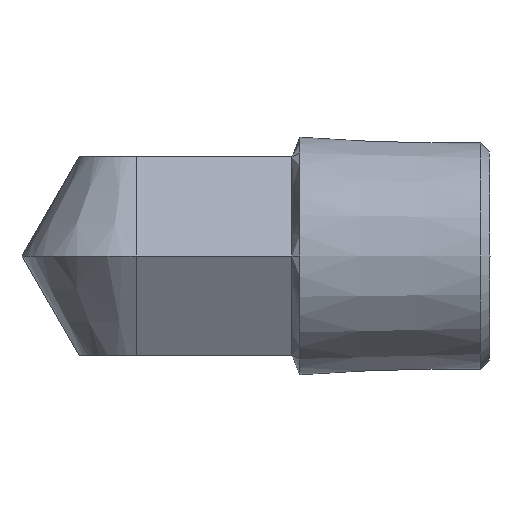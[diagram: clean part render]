
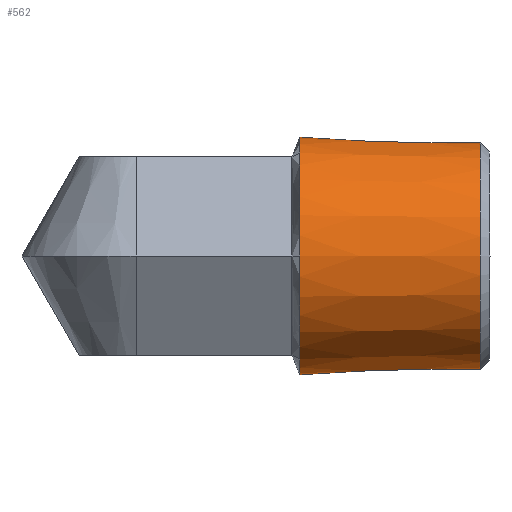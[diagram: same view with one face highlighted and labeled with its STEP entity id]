
A CAD part, left-side view. The second image highlights one B-rep face of the part: STEP entity #562.
In plain terms, the highlighted conical face has half-angle 1.79 degrees and reference radius 8.201 mm.
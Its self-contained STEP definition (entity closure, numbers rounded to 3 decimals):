
#225=CARTESIAN_POINT('',(4.2,13.451,7.275));
#226=VERTEX_POINT('',#225);
#227=CARTESIAN_POINT('',(8.4,13.451,0.));
#228=VERTEX_POINT('',#227);
#229=CARTESIAN_POINT('',(0.,13.451,0.0));
#230=DIRECTION('',(0.,1.0,0.0));
#231=DIRECTION('',(-1.0,0.,0.0));
#232=AXIS2_PLACEMENT_3D('',#229,#230,#231);
#233=CIRCLE('',#232,8.4);
#234=EDGE_CURVE('',#226,#228,#233,.T.);
#292=CARTESIAN_POINT('',(-4.2,13.451,7.275));
#293=VERTEX_POINT('',#292);
#294=CARTESIAN_POINT('',(0.,13.451,0.0));
#295=DIRECTION('',(0.,1.0,0.0));
#296=DIRECTION('',(-1.0,0.,0.0));
#297=AXIS2_PLACEMENT_3D('',#294,#295,#296);
#298=CIRCLE('',#297,8.4);
#299=EDGE_CURVE('',#293,#226,#298,.T.);
#349=CARTESIAN_POINT('',(-8.4,13.451,0.0));
#350=VERTEX_POINT('',#349);
#351=CARTESIAN_POINT('',(0.,13.451,0.0));
#352=DIRECTION('',(0.,1.0,0.0));
#353=DIRECTION('',(-1.0,0.,0.0));
#354=AXIS2_PLACEMENT_3D('',#351,#352,#353);
#355=CIRCLE('',#354,8.4);
#356=EDGE_CURVE('',#350,#293,#355,.T.);
#406=CARTESIAN_POINT('',(-4.2,13.451,-7.275));
#407=VERTEX_POINT('',#406);
#408=CARTESIAN_POINT('',(0.,13.451,0.0));
#409=DIRECTION('',(0.,1.0,0.0));
#410=DIRECTION('',(-1.0,0.,0.0));
#411=AXIS2_PLACEMENT_3D('',#408,#409,#410);
#412=CIRCLE('',#411,8.4);
#413=EDGE_CURVE('',#407,#350,#412,.T.);
#463=CARTESIAN_POINT('',(4.2,13.451,-7.275));
#464=VERTEX_POINT('',#463);
#465=CARTESIAN_POINT('',(0.,13.451,0.0));
#466=DIRECTION('',(0.,1.0,0.0));
#467=DIRECTION('',(-1.0,0.,0.0));
#468=AXIS2_PLACEMENT_3D('',#465,#466,#467);
#469=CIRCLE('',#468,8.4);
#470=EDGE_CURVE('',#464,#407,#469,.T.);
#520=CARTESIAN_POINT('',(0.,13.451,0.0));
#521=DIRECTION('',(0.,1.0,0.0));
#522=DIRECTION('',(-1.0,0.,0.0));
#523=AXIS2_PLACEMENT_3D('',#520,#521,#522);
#524=CIRCLE('',#523,8.4);
#525=EDGE_CURVE('',#228,#464,#524,.T.);
#538=CARTESIAN_POINT('',(0.,7.075,0.0));
#539=DIRECTION('',(0.,1.0,0.0));
#540=DIRECTION('',(-1.0,0.,0.0));
#541=AXIS2_PLACEMENT_3D('',#538,#539,#540);
#542=CONICAL_SURFACE('',#541,8.201,1.79);
#543=ORIENTED_EDGE('',*,*,#356,.F.);
#544=ORIENTED_EDGE('',*,*,#413,.F.);
#545=ORIENTED_EDGE('',*,*,#470,.F.);
#546=ORIENTED_EDGE('',*,*,#525,.F.);
#547=ORIENTED_EDGE('',*,*,#234,.F.);
#548=ORIENTED_EDGE('',*,*,#299,.F.);
#549=EDGE_LOOP('',(#543,#544,#545,#546,#547,#548));
#550=FACE_OUTER_BOUND('',#549,.T.);
#551=CARTESIAN_POINT('',(-8.002,0.7,0.0));
#552=VERTEX_POINT('',#551);
#553=CARTESIAN_POINT('',(0.,0.7,0.0));
#554=DIRECTION('',(0.,1.0,0.0));
#555=DIRECTION('',(-1.0,0.,0.0));
#556=AXIS2_PLACEMENT_3D('',#553,#554,#555);
#557=CIRCLE('',#556,8.002);
#558=EDGE_CURVE('',#552,#552,#557,.T.);
#559=ORIENTED_EDGE('',*,*,#558,.T.);
#560=EDGE_LOOP('',(#559));
#561=FACE_BOUND('',#560,.T.);
#562=ADVANCED_FACE('',(#550,#561),#542,.T.);
